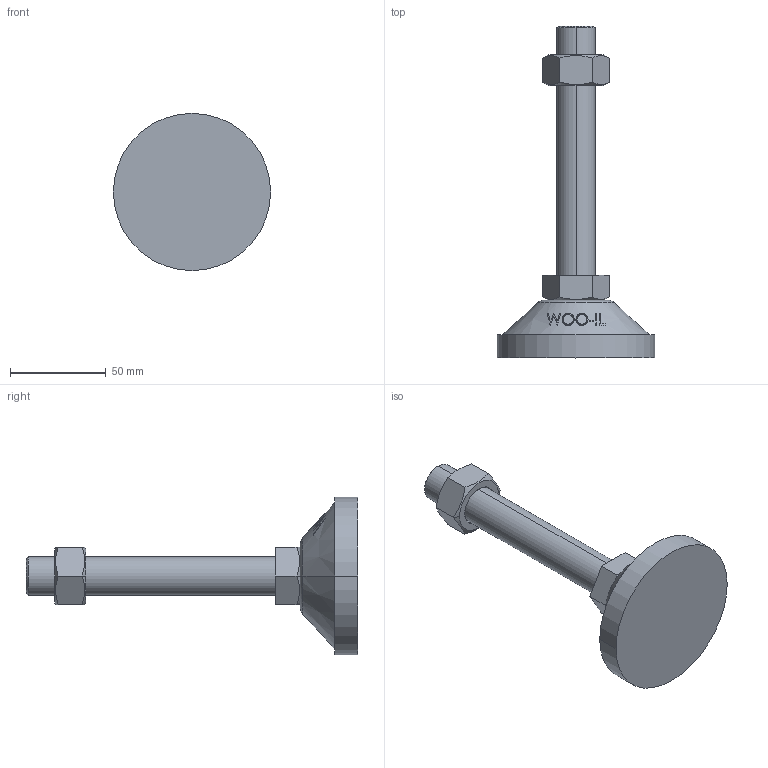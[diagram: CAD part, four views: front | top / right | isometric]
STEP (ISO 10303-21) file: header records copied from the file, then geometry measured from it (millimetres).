
FILE_DESCRIPTION (( 'STEP AP214' ), '1' );
FILE_NAME ('RL82-M20-130.step', '2021-01-06T08:18:34', ( '' ), ( '' ), 'SwSTEP 2.0', 'SolidWorks 2019', '' );
FILE_SCHEMA (( 'AUTOMOTIVE_DESIGN' ));
Length unit declared in the file: millimetre
Products named in the file (1): RL82-M20-130
Bounding box: 82 x 173 x 82 mm (x, y, z)
Volume: 169052.8 mm3; surface area: 29314.2 mm2
Topology: 3 solids, 3 shells, 93 faces, 217 edges, 140 vertices
Faces by surface type: plane 47, cone 22, bspline 16, cylinder 6, torus 2
Entity records: 4235 total; most frequent: CARTESIAN_POINT 2203, ORIENTED_EDGE 434, DIRECTION 349, EDGE_CURVE 217, VERTEX_POINT 140, AXIS2_PLACEMENT_3D 134, EDGE_LOOP 105, FACE_OUTER_BOUND 93
